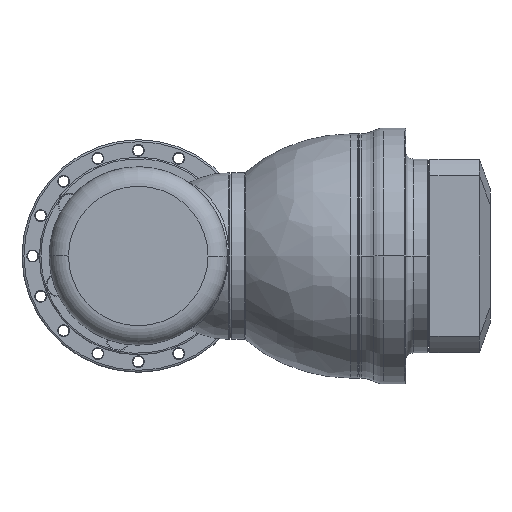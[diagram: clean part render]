
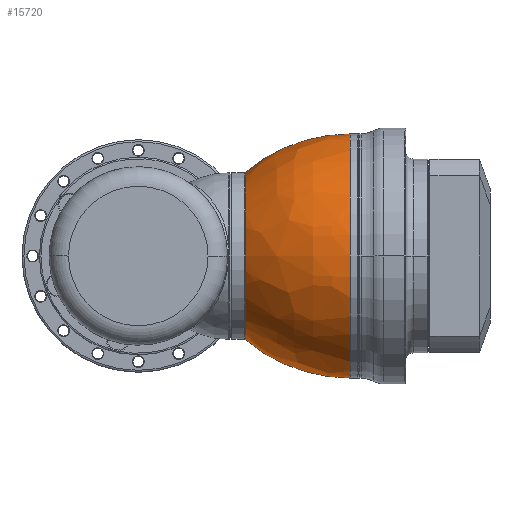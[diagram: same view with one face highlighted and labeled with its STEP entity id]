
A CAD part, left-side view. The second image highlights one B-rep face of the part: STEP entity #15720.
In plain terms, the highlighted free-form (B-spline) face has degree [3, 3] with [7, 4] control points.
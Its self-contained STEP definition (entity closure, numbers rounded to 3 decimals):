
#15426=CARTESIAN_POINT('',(-4.,0.,0.));
#15427=DIRECTION('',(1.,0.,0.));
#15428=DIRECTION('',(0.,-1.,0.));
#15429=AXIS2_PLACEMENT_3D('',#15426,#15427,#15428);
#15450=CARTESIAN_POINT('',(-4.,-21.256,0.));
#15451=DIRECTION('',(0.,0.,-1.));
#15452=DIRECTION('',(-0.645,0.764,0.));
#15453=AXIS2_PLACEMENT_3D('',#15450,#15451,#15452);
#15455=CARTESIAN_POINT('',(-4.,21.256,0.));
#15456=DIRECTION('',(0.,0.,1.));
#15457=DIRECTION('',(-0.645,-0.764,0.));
#15458=AXIS2_PLACEMENT_3D('',#15455,#15456,#15457);
#15470=CARTESIAN_POINT('',(-58.361,0.,0.));
#15471=DIRECTION('',(-1.,0.,0.));
#15472=DIRECTION('',(0.,1.,0.));
#15473=AXIS2_PLACEMENT_3D('',#15470,#15471,#15472);
#15521=CARTESIAN_POINT('',(-4.,63.,0.));
#15522=CARTESIAN_POINT('',(-4.,-63.,0.));
#15523=VERTEX_POINT('',#15521);
#15524=VERTEX_POINT('',#15522);
#15525=CARTESIAN_POINT('',(-58.361,43.118,0.));
#15526=CARTESIAN_POINT('',(-58.361,-43.118,0.));
#15527=VERTEX_POINT('',#15525);
#15528=VERTEX_POINT('',#15526);
#15685=CARTESIAN_POINT('',(-2.818,62.867,
3.955));
#15686=CARTESIAN_POINT('',(-23.767,63.161,
3.974));
#15687=CARTESIAN_POINT('',(-43.442,55.979,
3.522));
#15688=CARTESIAN_POINT('',(-59.258,42.266,
2.659));
#15689=CARTESIAN_POINT('',(-2.818,65.301,
-34.733));
#15690=CARTESIAN_POINT('',(-23.767,65.606,
-34.895));
#15691=CARTESIAN_POINT('',(-43.442,58.146,
-30.927));
#15692=CARTESIAN_POINT('',(-59.258,43.902,
-23.351));
#15693=CARTESIAN_POINT('',(-2.818,38.765,
-62.992));
#15694=CARTESIAN_POINT('',(-23.767,38.946,
-63.286));
#15695=CARTESIAN_POINT('',(-43.442,34.517,
-56.089));
#15696=CARTESIAN_POINT('',(-59.258,26.062,
-42.349));
#15697=CARTESIAN_POINT('',(-2.818,0.,
-62.992));
#15698=CARTESIAN_POINT('',(-23.767,0.,
-63.286));
#15699=CARTESIAN_POINT('',(-43.442,0.,-56.089));
#15700=CARTESIAN_POINT('',(-59.258,0.,-42.349));
#15701=CARTESIAN_POINT('',(-2.818,-38.765,
-62.992));
#15702=CARTESIAN_POINT('',(-23.767,-38.946,
-63.286));
#15703=CARTESIAN_POINT('',(-43.442,-34.517,
-56.089));
#15704=CARTESIAN_POINT('',(-59.258,-26.062,
-42.349));
#15705=CARTESIAN_POINT('',(-2.818,-65.301,
-34.733));
#15706=CARTESIAN_POINT('',(-23.767,-65.606,
-34.895));
#15707=CARTESIAN_POINT('',(-43.442,-58.146,
-30.927));
#15708=CARTESIAN_POINT('',(-59.258,-43.902,
-23.351));
#15709=CARTESIAN_POINT('',(-2.818,-62.867,
3.955));
#15710=CARTESIAN_POINT('',(-23.767,-63.161,
3.974));
#15711=CARTESIAN_POINT('',(-43.442,-55.979,
3.522));
#15712=CARTESIAN_POINT('',(-59.258,-42.266,
2.659));
#15713=(BOUNDED_SURFACE()B_SPLINE_SURFACE(3,3,((#15685,#15686,#15687,#15688),(
#15689,#15690,#15691,#15692),(#15693,#15694,#15695,#15696),(#15697,#15698,
#15699,#15700),(#15701,#15702,#15703,#15704),(#15705,#15706,#15707,#15708),(
#15709,#15710,#15711,#15712)),.UNSPECIFIED.,.F.,.F.,.F.)B_SPLINE_SURFACE_WITH_KNOTS((4,3,4),(4,4),(0.,1.,2.),(0.,1.),.UNSPECIFIED.)GEOMETRIC_REPRESENTATION_ITEM()RATIONAL_B_SPLINE_SURFACE(((1.228,1.174,
1.174,1.228),(0.969,0.927,
0.927,0.969),(0.969,0.927,
0.927,0.969),(1.228,1.174,
1.174,1.228),(0.969,0.927,
0.927,0.969),(0.969,0.927,
0.927,0.969),(1.228,1.174,
1.174,1.228)))REPRESENTATION_ITEM('')SURFACE());
#15714=ORIENTED_EDGE('',*,*,#15676,.T.);
#15715=ORIENTED_EDGE('',*,*,#15651,.T.);
#15716=ORIENTED_EDGE('',*,*,#15597,.T.);
#15717=ORIENTED_EDGE('',*,*,#15648,.F.);
#15718=EDGE_LOOP('',(#15714,#15715,#15716,#15717));
#15719=FACE_OUTER_BOUND('',#15718,.F.);
#15720=ADVANCED_FACE('',(#15719),#15713,.T.);
#15430=CIRCLE('',#15429,63.);
#15454=CIRCLE('',#15453,84.256);
#15459=CIRCLE('',#15458,84.256);
#15474=CIRCLE('',#15473,43.118);
#15597=EDGE_CURVE('',#15524,#15523,#15430,.T.);
#15648=EDGE_CURVE('',#15527,#15523,#15454,.T.);
#15651=EDGE_CURVE('',#15528,#15524,#15459,.T.);
#15676=EDGE_CURVE('',#15527,#15528,#15474,.T.);
